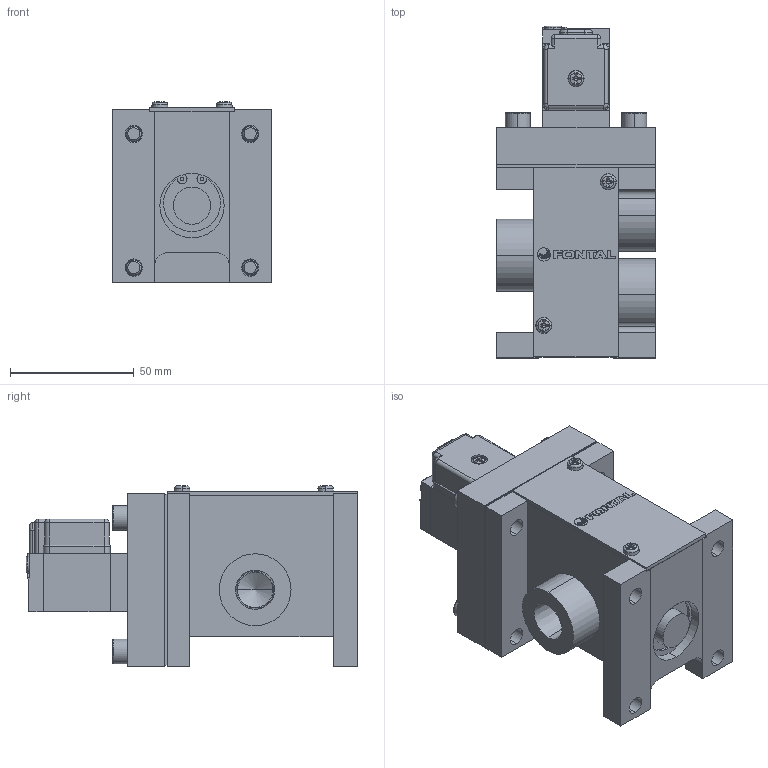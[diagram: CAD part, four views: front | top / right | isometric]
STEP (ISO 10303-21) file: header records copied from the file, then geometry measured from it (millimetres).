
FILE_DESCRIPTION (( 'STEP AP203' ), '1' );
FILE_NAME ('PMS2310#-03-#G#.STEP', '2016-03-09T08:18:16', ( 'Sam Lin' ), ( '' ), 'SwSTEP 2.0', 'SolidWorks 2013', '' );
FILE_SCHEMA (( 'CONFIG_CONTROL_DESIGN' ));
Length unit declared in the file: metre
Products named in the file (16): PMS2310-3; PM06-G1; PMS2310-5; PMS2310-6; ISO 4762 M6 x 20; PMS2308-5; PM06-C3-M4_1; PMS2308-6; PM10-MARK; PMS2310#-03-#G#; PM06-C1_1; PM06-C4_1; PMS2310-1; PM06-C6-M3_1; PMS2310-2; PM06-C5_1
Assembly tree (21 placements, depth 2):
  PMS2310#-03-#G#
    PMS2310-1
    PMS2310-2
    PMS2310-3
    PMS2310-5
    ISO 4762 M6 x 20  x4
    PM06-C3-M4_1  x3
    PM10-MARK
    PM06-C1_1
    PM06-C4_1
    PM06-C6-M3_1  x2
    PM06-C5_1
    PM06-G1
    PMS2310-6
    PMS2308-5
    PMS2308-6
Bounding box: 64 x 134 x 73.05 mm (x, y, z)
Volume: 321210.9 mm3; surface area: 82557.9 mm2
Topology: 27 solids, 27 shells, 642 faces, 1559 edges, 974 vertices
Faces by surface type: plane 330, cylinder 169, cone 73, bspline 66, torus 4
Entity records: 16625 total; most frequent: CARTESIAN_POINT 3860, DIRECTION 2303, ORIENTED_EDGE 2226, EDGE_CURVE 1113, AXIS2_PLACEMENT_3D 833, VERTEX_POINT 716, LINE 637, VECTOR 637
